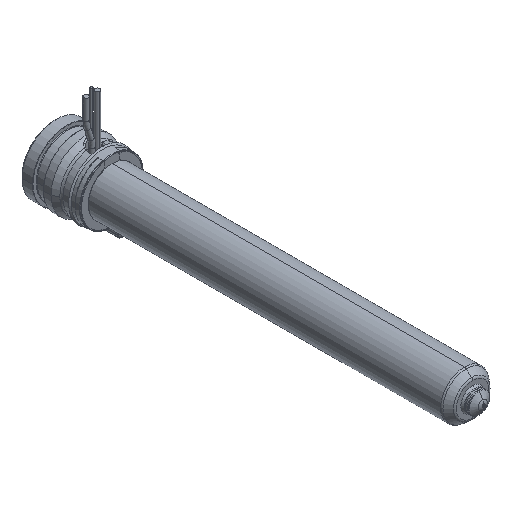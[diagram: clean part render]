
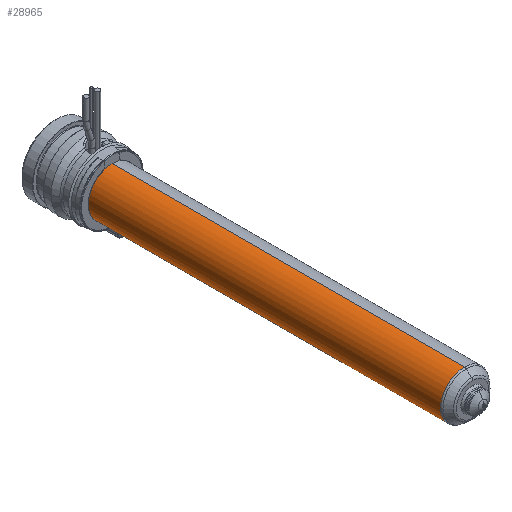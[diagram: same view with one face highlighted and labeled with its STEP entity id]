
A CAD part, isometric view. The second image highlights one B-rep face of the part: STEP entity #28965.
In plain terms, the highlighted cylindrical face has radius 9 mm (diameter 18 mm), a partial arc.
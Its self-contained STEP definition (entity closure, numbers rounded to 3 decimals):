
#28354=CARTESIAN_POINT('',(0.,-155.836,0.));
#28355=DIRECTION('',(0.,-1.,0.));
#28356=DIRECTION('',(0.,0.,1.));
#28357=AXIS2_PLACEMENT_3D('',#28354,#28355,#28356);
#28362=CARTESIAN_POINT('',(0.,-22.,0.));
#28363=DIRECTION('',(0.,-1.,0.));
#28364=DIRECTION('',(0.,0.,1.));
#28365=AXIS2_PLACEMENT_3D('',#28362,#28363,#28364);
#28370=DIRECTION('',(0.,-1.,0.));
#28371=VECTOR('',#28370,133.836);
#28372=CARTESIAN_POINT('',(0.,-22.,9.));
#28373=LINE('',#28372,#28371);
#28385=DIRECTION('',(0.,-1.,0.));
#28386=VECTOR('',#28385,133.836);
#28387=CARTESIAN_POINT('',(0.,-22.,-9.));
#28388=LINE('',#28387,#28386);
#28582=CARTESIAN_POINT('',(0.,-22.,9.));
#28583=CARTESIAN_POINT('',(0.,-155.836,9.));
#28584=VERTEX_POINT('',#28582);
#28585=VERTEX_POINT('',#28583);
#28608=CARTESIAN_POINT('',(0.,-22.,-9.));
#28609=CARTESIAN_POINT('',(0.,-155.836,-9.));
#28610=VERTEX_POINT('',#28608);
#28611=VERTEX_POINT('',#28609);
#28951=CARTESIAN_POINT('',(0.,-10.7,0.));
#28952=DIRECTION('',(0.,-1.,0.));
#28953=DIRECTION('',(0.,0.,1.));
#28954=AXIS2_PLACEMENT_3D('',#28951,#28952,#28953);
#28955=CYLINDRICAL_SURFACE('',#28954,9.);
#28957=ORIENTED_EDGE('',*,*,#28956,.T.);
#28958=ORIENTED_EDGE('',*,*,#28946,.T.);
#28960=ORIENTED_EDGE('',*,*,#28959,.F.);
#28962=ORIENTED_EDGE('',*,*,#28961,.F.);
#28963=EDGE_LOOP('',(#28957,#28958,#28960,#28962));
#28964=FACE_OUTER_BOUND('',#28963,.F.);
#28965=ADVANCED_FACE('',(#28964),#28955,.T.);
#28358=CIRCLE('',#28357,9.);
#28366=CIRCLE('',#28365,9.);
#28946=EDGE_CURVE('',#28585,#28611,#28358,.T.);
#28956=EDGE_CURVE('',#28584,#28585,#28373,.T.);
#28959=EDGE_CURVE('',#28610,#28611,#28388,.T.);
#28961=EDGE_CURVE('',#28584,#28610,#28366,.T.);
